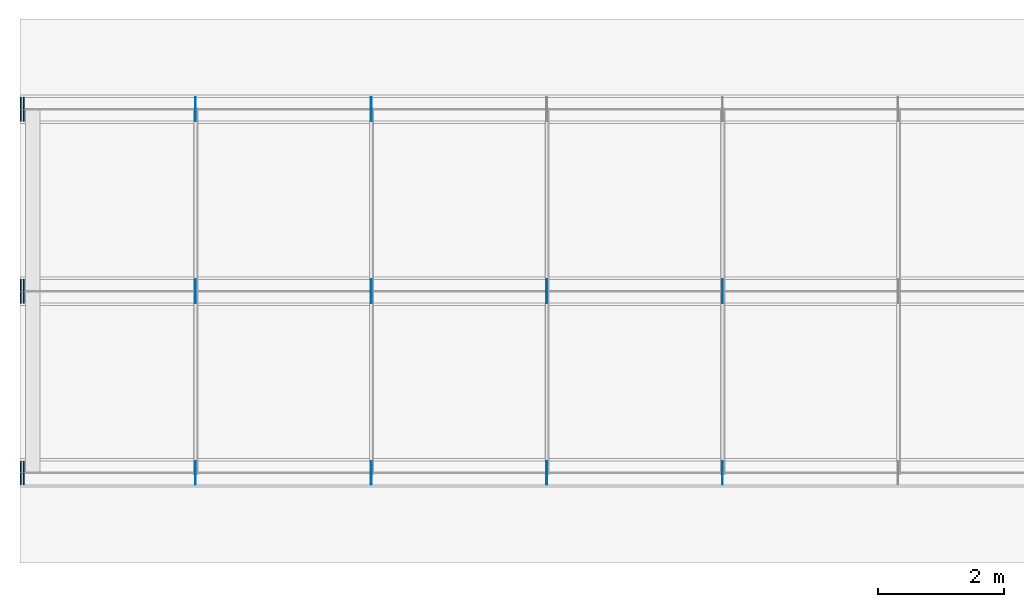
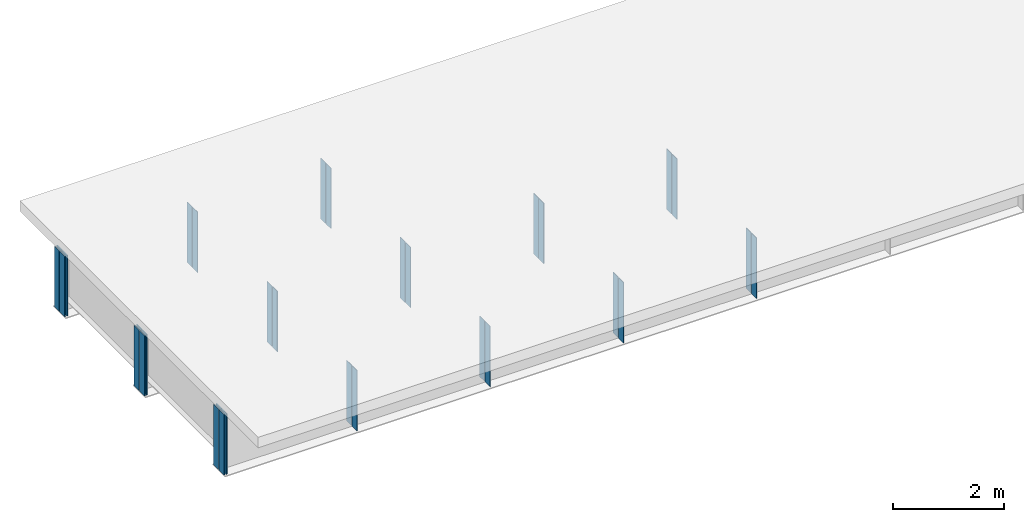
# One storey, part 2 of 8: 32 plates.
"""IFC4 building model written with IfcOpenShell, lengths in metres."""

from ifc_helpers import new_model, si_unit, frame, origin, origin_with_axes, origin_2d_with_axis, place, context, subcontext, project, spatial, rectangle, extrude, element, save


model = new_model("IFC4")

# Units and contexts
model_context = context("Model", 3, precision=1e-05, world=origin())
body_context = subcontext(model_context, "Body", "Model", "MODEL_VIEW")
ifc_project = project(units=[si_unit("LENGTHUNIT", "METRE"), si_unit("AREAUNIT", "SQUARE_METRE"), si_unit("VOLUMEUNIT", "CUBIC_METRE"), si_unit("PLANEANGLEUNIT", "RADIAN")], contexts=[model_context])

# Site, building, storey
site_placement = place(None, origin_with_axes())
site = spatial("IfcSite", under=ifc_project, at=site_placement, Name="Default Site")
building_placement = place(site_placement, origin_with_axes())
building = spatial("IfcBuilding", under=site, at=building_placement, Name="Bridge Structure")
storey_placement = place(building_placement, origin_with_axes())
storey = spatial("IfcBuildingStorey", under=building, at=storey_placement, Name="Superstructure")

# Plates
for number, where, z_axis, x_axis, name in (
    (1, (2.777, -2.77725, -0.6675), (0.0, 0.0, 1.0), (1.0, 0.0, 0.0), "Intermediate Stiffener 1"),
    (2, (2.777, -2.97275, -0.6675), (0.0, 0.0, 1.0), (1.0, 0.0, 0.0), "Intermediate Stiffener 1"),
    (3, (5.554, -2.77725, -0.6675), (0.0, 0.0, 1.0), (1.0, 0.0, 0.0), "Intermediate Stiffener 1"),
    (4, (5.554, -2.97275, -0.6675), (0.0, 0.0, 1.0), (1.0, 0.0, 0.0), "Intermediate Stiffener 1"),
    (5, (8.331, -2.77725, -0.6675), (0.0, 0.0, 1.0), (1.0, 0.0, 0.0), "Intermediate Stiffener 1"),
    (6, (8.331, -2.97275, -0.6675), (0.0, 0.0, 1.0), (1.0, 0.0, 0.0), "Intermediate Stiffener 1"),
    (7, (11.108, -2.77725, -0.6675), (0.0, 0.0, 1.0), (1.0, 0.0, 0.0), "Intermediate Stiffener 1"),
    (8, (11.108, -2.97275, -0.6675), (0.0, 0.0, 1.0), (1.0, 0.0, 0.0), "Intermediate Stiffener 1"),
):
    element("IfcPlate", number, at=place(storey_placement, frame(where, z_axis=z_axis, x_axis=x_axis)), inside=storey, Name=name, context=body_context, shape_type="SweptSolid", body=[
        extrude(rectangle(XDim=0.012, YDim=0.1795, at=origin_2d_with_axis()), origin_with_axes(), (0.0, 0.0, 1.0), 1.335),
    ])
for number, where, z_axis, x_axis, name in (
    (9, (0.01, -2.77725, -0.6675), (0.0, 0.0, 1.0), (1.0, 0.0, 0.0), "End Stiffener 1"),
    (10, (0.01, -2.97275, -0.6675), (0.0, 0.0, 1.0), (1.0, 0.0, 0.0), "End Stiffener 1"),
    (11, (0.06, -2.77725, -0.6675), (0.0, 0.0, 1.0), (1.0, 0.0, 0.0), "End Stiffener 1"),
    (12, (0.06, -2.97275, -0.6675), (0.0, 0.0, 1.0), (1.0, 0.0, 0.0), "End Stiffener 1"),
):
    element("IfcPlate", number, at=place(storey_placement, frame(where, z_axis=z_axis, x_axis=x_axis)), inside=storey, Name=name, context=body_context, shape_type="SweptSolid", body=[
        extrude(rectangle(XDim=0.02, YDim=0.1795, at=origin_2d_with_axis()), origin_with_axes(), (0.0, 0.0, 1.0), 1.335),
    ])
for number, where, z_axis, x_axis, name in (
    (13, (2.777, 0.09775, -0.6675), (0.0, 0.0, 1.0), (1.0, 0.0, 0.0), "Intermediate Stiffener 2"),
    (14, (2.777, -0.09775, -0.6675), (0.0, 0.0, 1.0), (1.0, 0.0, 0.0), "Intermediate Stiffener 2"),
    (15, (5.554, 0.09775, -0.6675), (0.0, 0.0, 1.0), (1.0, 0.0, 0.0), "Intermediate Stiffener 2"),
    (16, (5.554, -0.09775, -0.6675), (0.0, 0.0, 1.0), (1.0, 0.0, 0.0), "Intermediate Stiffener 2"),
    (17, (8.331, 0.09775, -0.6675), (0.0, 0.0, 1.0), (1.0, 0.0, 0.0), "Intermediate Stiffener 2"),
    (18, (8.331, -0.09775, -0.6675), (0.0, 0.0, 1.0), (1.0, 0.0, 0.0), "Intermediate Stiffener 2"),
    (19, (11.108, 0.09775, -0.6675), (0.0, 0.0, 1.0), (1.0, 0.0, 0.0), "Intermediate Stiffener 2"),
    (20, (11.108, -0.09775, -0.6675), (0.0, 0.0, 1.0), (1.0, 0.0, 0.0), "Intermediate Stiffener 2"),
):
    element("IfcPlate", number, at=place(storey_placement, frame(where, z_axis=z_axis, x_axis=x_axis)), inside=storey, Name=name, context=body_context, shape_type="SweptSolid", body=[
        extrude(rectangle(XDim=0.012, YDim=0.1795, at=origin_2d_with_axis()), origin_with_axes(), (0.0, 0.0, 1.0), 1.335),
    ])
for number, where, z_axis, x_axis, name in (
    (21, (0.01, 0.09775, -0.6675), (0.0, 0.0, 1.0), (1.0, 0.0, 0.0), "End Stiffener 2"),
    (22, (0.01, -0.09775, -0.6675), (0.0, 0.0, 1.0), (1.0, 0.0, 0.0), "End Stiffener 2"),
    (23, (0.06, 0.09775, -0.6675), (0.0, 0.0, 1.0), (1.0, 0.0, 0.0), "End Stiffener 2"),
    (24, (0.06, -0.09775, -0.6675), (0.0, 0.0, 1.0), (1.0, 0.0, 0.0), "End Stiffener 2"),
):
    element("IfcPlate", number, at=place(storey_placement, frame(where, z_axis=z_axis, x_axis=x_axis)), inside=storey, Name=name, context=body_context, shape_type="SweptSolid", body=[
        extrude(rectangle(XDim=0.02, YDim=0.1795, at=origin_2d_with_axis()), origin_with_axes(), (0.0, 0.0, 1.0), 1.335),
    ])
for number, where, z_axis, x_axis, name in (
    (25, (2.777, 2.97275, -0.6675), (0.0, 0.0, 1.0), (1.0, 0.0, 0.0), "Intermediate Stiffener 3"),
    (26, (2.777, 2.77725, -0.6675), (0.0, 0.0, 1.0), (1.0, 0.0, 0.0), "Intermediate Stiffener 3"),
    (27, (5.554, 2.97275, -0.6675), (0.0, 0.0, 1.0), (1.0, 0.0, 0.0), "Intermediate Stiffener 3"),
    (28, (5.554, 2.77725, -0.6675), (0.0, 0.0, 1.0), (1.0, 0.0, 0.0), "Intermediate Stiffener 3"),
):
    element("IfcPlate", number, at=place(storey_placement, frame(where, z_axis=z_axis, x_axis=x_axis)), inside=storey, Name=name, context=body_context, shape_type="SweptSolid", body=[
        extrude(rectangle(XDim=0.012, YDim=0.1795, at=origin_2d_with_axis()), origin_with_axes(), (0.0, 0.0, 1.0), 1.335),
    ])
for number, where, z_axis, x_axis, name in (
    (29, (0.01, 2.97275, -0.6675), (0.0, 0.0, 1.0), (1.0, 0.0, 0.0), "End Stiffener 3"),
    (30, (0.01, 2.77725, -0.6675), (0.0, 0.0, 1.0), (1.0, 0.0, 0.0), "End Stiffener 3"),
    (31, (0.06, 2.97275, -0.6675), (0.0, 0.0, 1.0), (1.0, 0.0, 0.0), "End Stiffener 3"),
    (32, (0.06, 2.77725, -0.6675), (0.0, 0.0, 1.0), (1.0, 0.0, 0.0), "End Stiffener 3"),
):
    element("IfcPlate", number, at=place(storey_placement, frame(where, z_axis=z_axis, x_axis=x_axis)), inside=storey, Name=name, context=body_context, shape_type="SweptSolid", body=[
        extrude(rectangle(XDim=0.02, YDim=0.1795, at=origin_2d_with_axis()), origin_with_axes(), (0.0, 0.0, 1.0), 1.335),
    ])

save(model, "model.ifc")
